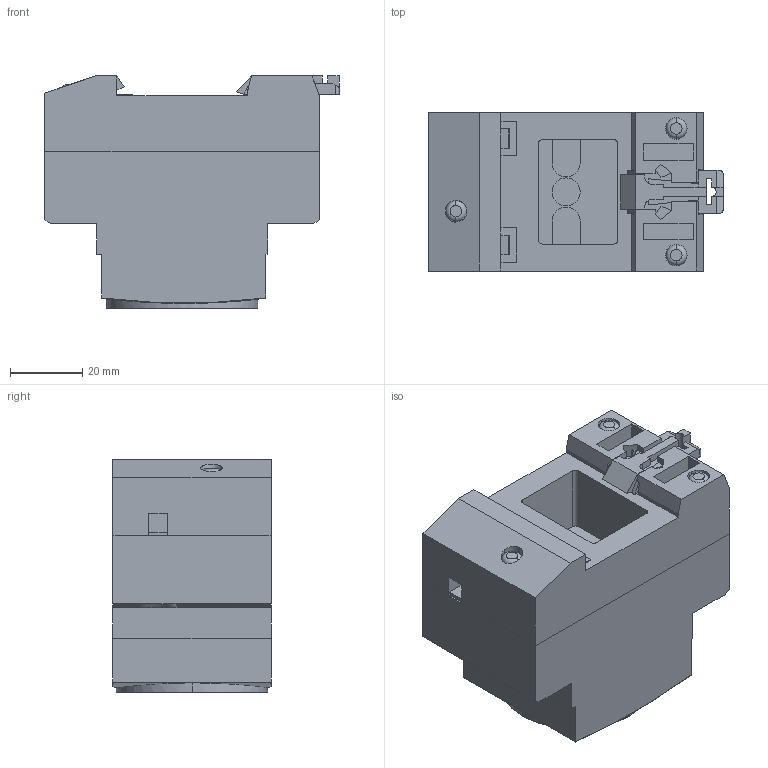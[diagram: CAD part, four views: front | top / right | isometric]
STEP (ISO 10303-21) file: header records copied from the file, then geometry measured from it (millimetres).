
FILE_DESCRIPTION((''),'2;1');
FILE_NAME('PRT0002','2024-01-19T14:02:23',('Administrator'),(''),'CREO PARAMETRIC BY PTC INC, 2020053','CREO PARAMETRIC BY PTC INC, 2020053','');
FILE_SCHEMA(('CONFIG_CONTROL_DESIGN'));
Length unit declared in the file: millimetre
Products named in the file (1): PRT0002
Bounding box: 81.7 x 44 x 64.7 mm (x, y, z)
Volume: 138093.4 mm3; surface area: 29263.6 mm2
Topology: 4 solids, 8 shells, 593 faces, 1584 edges, 1042 vertices
Faces by surface type: plane 382, extrusion 108, cylinder 78, torus 12, cone 9, sphere 4
Entity records: 18818 total; most frequent: CARTESIAN_POINT 4255, ORIENTED_EDGE 3152, DIRECTION 2632, EDGE_CURVE 1584, VECTOR 1244, LINE 1136, VERTEX_POINT 1042, AXIS2_PLACEMENT_3D 694
